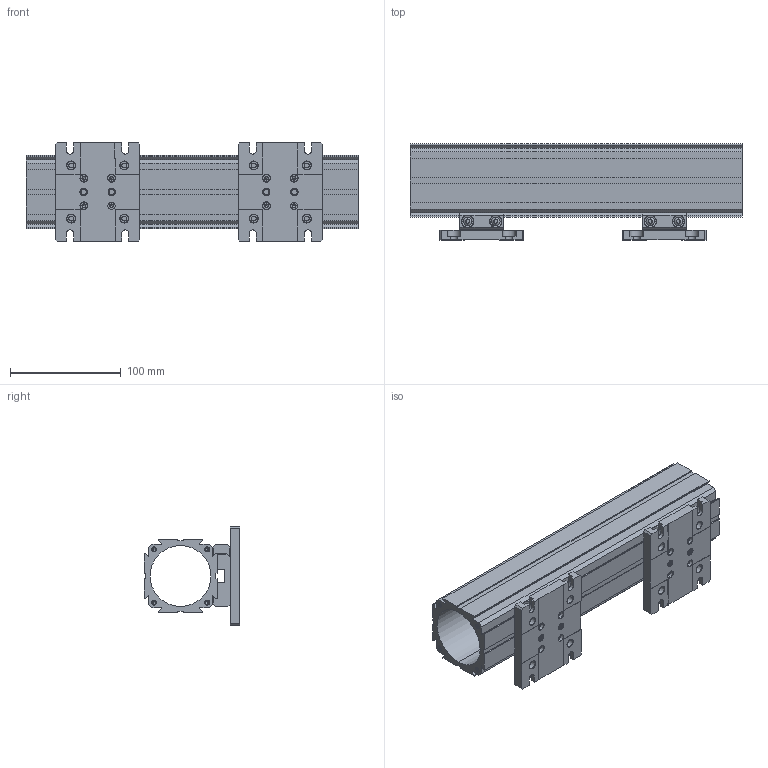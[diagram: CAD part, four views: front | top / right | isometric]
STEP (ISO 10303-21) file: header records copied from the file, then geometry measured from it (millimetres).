
FILE_DESCRIPTION((''),'2;1');
FILE_NAME('OPH-B300_ASM','2021-06-24T',('Administrator'),(''),'CREO PARAMETRIC BY PTC INC, 2015290','CREO PARAMETRIC BY PTC INC, 2015290','');
FILE_SCHEMA(('CONFIG_CONTROL_DESIGN'));
Products named in the file (8): M4X12_HP; WASHER_M4; OOP-MA_A1; OOP-MA_A2; OOP-MA_ASM; OPS-ML; OPH_A300; OPH-B300_ASM
Assembly tree (11 placements, depth 3):
  OPH-B300_ASM
    OOP-MA_ASM  x2
      M4X12_HP
      WASHER_M4
      OOP-MA_A1
      OOP-MA_A2
    OPS-ML  x2
    OPH_A300
Bounding box: 300 x 86.73 x 89.28 mm (x, y, z)
Volume: 613426.3 mm3; surface area: 201753.7 mm2
Topology: 15 solids, 15 shells, 1262 faces, 3620 edges, 2312 vertices
Faces by surface type: cylinder 476, plane 322, bspline 312, cone 132, extrusion 12, sphere 8
Entity records: 52683 total; most frequent: CARTESIAN_POINT 34572, ORIENTED_EDGE 4340, DIRECTION 2766, EDGE_CURVE 2170, VERTEX_POINT 1403, VECTOR 1052, LINE 1049, AXIS2_PLACEMENT_3D 857
